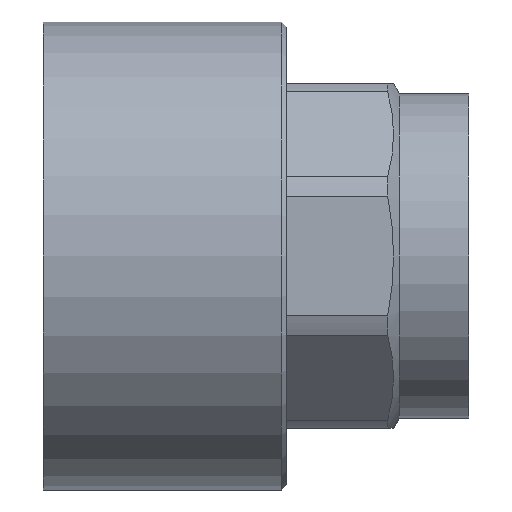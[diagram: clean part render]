
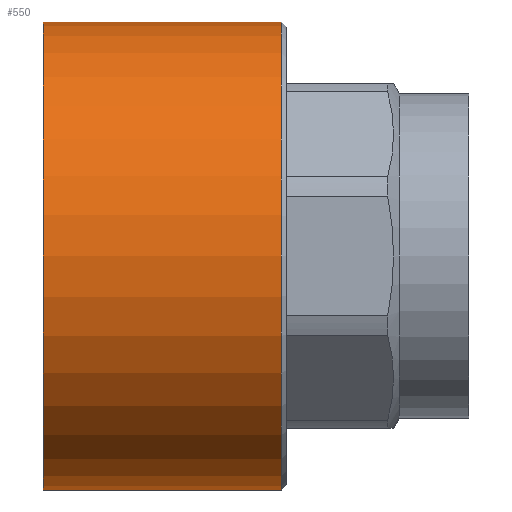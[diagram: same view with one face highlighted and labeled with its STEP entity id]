
A CAD part, front view. The second image highlights one B-rep face of the part: STEP entity #550.
In plain terms, the highlighted cylindrical face has radius 23.1 mm (diameter 46.2 mm), a full revolution.
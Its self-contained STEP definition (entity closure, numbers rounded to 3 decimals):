
#32=CYLINDRICAL_SURFACE('',#616,23.1);
#66=FACE_OUTER_BOUND('',#99,.T.);
#99=EDGE_LOOP('',(#398,#399,#400,#401,#402));
#142=LINE('',#881,#176);
#176=VECTOR('',#708,23.1);
#202=CIRCLE('',#605,23.1);
#203=CIRCLE('',#606,23.1);
#212=CIRCLE('',#617,23.1);
#236=VERTEX_POINT('',#841);
#237=VERTEX_POINT('',#843);
#254=VERTEX_POINT('',#880);
#294=EDGE_CURVE('',#236,#237,#202,.T.);
#295=EDGE_CURVE('',#237,#236,#203,.T.);
#312=EDGE_CURVE('',#237,#254,#142,.T.);
#313=EDGE_CURVE('',#254,#254,#212,.T.);
#398=ORIENTED_EDGE('',*,*,#294,.F.);
#399=ORIENTED_EDGE('',*,*,#295,.F.);
#400=ORIENTED_EDGE('',*,*,#312,.T.);
#401=ORIENTED_EDGE('',*,*,#313,.T.);
#402=ORIENTED_EDGE('',*,*,#312,.F.);
#550=ADVANCED_FACE('',(#66),#32,.T.);
#605=AXIS2_PLACEMENT_3D('',#844,#676,#677);
#606=AXIS2_PLACEMENT_3D('',#845,#678,#679);
#616=AXIS2_PLACEMENT_3D('',#879,#706,#707);
#617=AXIS2_PLACEMENT_3D('',#882,#709,#710);
#676=DIRECTION('center_axis',(1.,0.,0.));
#677=DIRECTION('ref_axis',(0.,-1.,0.));
#678=DIRECTION('center_axis',(1.,0.,0.));
#679=DIRECTION('ref_axis',(0.,-1.,0.));
#706=DIRECTION('center_axis',(1.,0.,0.));
#707=DIRECTION('ref_axis',(0.,1.,0.));
#708=DIRECTION('',(-1.,0.,0.));
#709=DIRECTION('center_axis',(1.,0.,0.));
#710=DIRECTION('ref_axis',(0.,1.,0.));
#841=CARTESIAN_POINT('',(2.5,23.1,0.));
#843=CARTESIAN_POINT('',(2.5,-23.1,0.));
#844=CARTESIAN_POINT('Origin',(2.5,0.,0.));
#845=CARTESIAN_POINT('Origin',(2.5,0.,0.));
#879=CARTESIAN_POINT('Origin',(-9.,0.,0.));
#880=CARTESIAN_POINT('',(-21.,-23.1,0.));
#881=CARTESIAN_POINT('',(-9.,-23.1,0.));
#882=CARTESIAN_POINT('Origin',(-21.,0.,0.));
